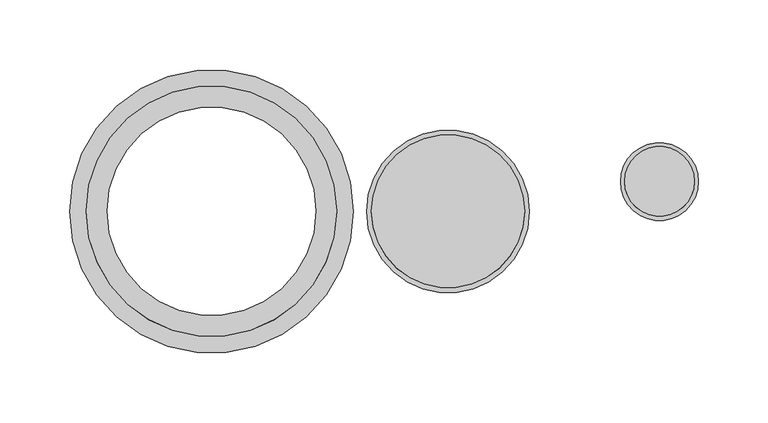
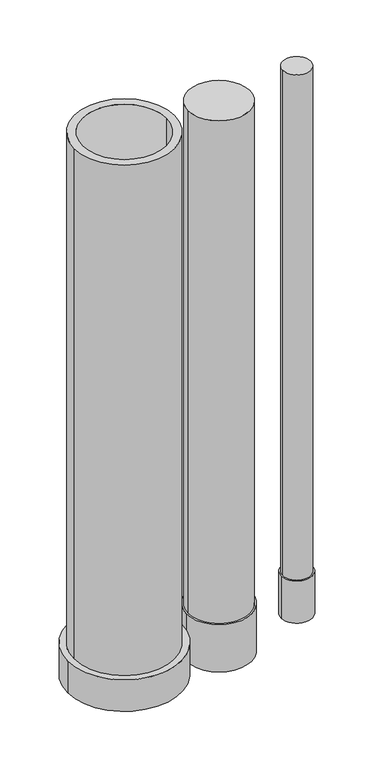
"""IFC4 building model written with IfcOpenShell, lengths in millimetres: pipe segment geometry, DERS_420_AM_AEB_Delta Discovery Air_pipe extension set-GG_M&G : pipe ext set L=1000mm."""

import ifcopenshell
import ifcopenshell.guid

model = None  # the IFC model being written
_history = None  # IfcOwnerHistory: only IFC2X3 demands one
_inside = {}  # id of a spatial element -> (the spatial element, [elements in it])
_under = {}  # id of a project, library or spatial element -> (it, [spatial elements below it])
_declared = {}  # id of a project -> (the project, [libraries it declares])
_typed = {}  # id of a type object -> (the type object, [elements of that type])
_made_of = {}  # id of a material, layer set ... -> (it, [elements and type objects made of it])


def new_model(schema):
    """Start an empty IFC model of exactly this schema.

    Asked for "IFC4X3", IfcOpenShell would pick the latest addendum, in which some entities
    have other attributes; the version numbers below select the first issue.
    IFC2X3 requires an IfcOwnerHistory on every rooted entity: one is made here for all.
    """
    global model, _history
    if schema == "IFC4X3":
        model = ifcopenshell.file(schema_version=(4, 3, 0, 0))
    else:
        model = ifcopenshell.file(schema=schema)
    _inside.clear()
    _under.clear()
    _declared.clear()
    _typed.clear()
    _made_of.clear()
    _history = None
    if model.schema == "IFC2X3":
        org = make("IfcOrganization", Name="unknown")
        user = make(
            "IfcPersonAndOrganization",
            ThePerson=make("IfcPerson", FamilyName="unknown"),
            TheOrganization=org,
        )
        app = make(
            "IfcApplication",
            ApplicationDeveloper=org,
            Version="unknown",
            ApplicationFullName="unknown",
            ApplicationIdentifier="unknown",
        )
        _history = make(
            "IfcOwnerHistory",
            OwningUser=user,
            OwningApplication=app,
            ChangeAction="ADDED",
            CreationDate=0,
        )
    return model


def make(cls, **values):
    """One entity of the class cls with the attributes given. An attribute that is None is left unset."""
    return model.create_entity(
        cls, **{name: value for name, value in values.items() if value is not None}
    )


def rooted(cls, **values):
    """An entity with a GlobalId (a new one), such as an element, a storey or a relation."""
    return make(cls, GlobalId=ifcopenshell.guid.new(), OwnerHistory=_history, **values)


def si_unit(unit_type, name, prefix=None):
    """IfcSIUnit, for example si_unit("LENGTHUNIT", "METRE", prefix="MILLI")."""
    return make("IfcSIUnit", UnitType=unit_type, Prefix=prefix, Name=name)


def assignment(units):
    """IfcUnitAssignment: the units of a project."""
    return None if units is None else make("IfcUnitAssignment", Units=units)


def point(xyz):
    """IfcCartesianPoint."""
    return None if xyz is None else make("IfcCartesianPoint", Coordinates=xyz)


def direction(xyz):
    """IfcDirection."""
    return None if xyz is None else make("IfcDirection", DirectionRatios=xyz)


def frame(location, z_axis=None, x_axis=None):
    """IfcAxis2Placement3D, a coordinate frame: its origin and axes. An axis left out is left unset."""
    return make(
        "IfcAxis2Placement3D",
        Location=point(location),
        Axis=direction(z_axis),
        RefDirection=direction(x_axis),
    )


def frame_2d(location, x_axis=None):
    """IfcAxis2Placement2D, a coordinate frame in the plane: its origin and x axis."""
    return make(
        "IfcAxis2Placement2D", Location=point(location), RefDirection=direction(x_axis)
    )


def origin():
    """The frame at (0, 0, 0) with its axes left unset."""
    return frame((0.0, 0.0, 0.0))


def origin_2d():
    """The frame at (0, 0) in the plane with its x axis left unset."""
    return frame_2d((0.0, 0.0))


def place(relative_to, where):
    """IfcLocalPlacement: puts the frame where relative to a parent placement (None: the world)."""
    return make(
        "IfcLocalPlacement", PlacementRelTo=relative_to, RelativePlacement=where
    )


def context(
    kind, dimensions, precision=None, world=None, true_north=None, identifier=None
):
    """IfcGeometricRepresentationContext, for example the 3D "Model" context."""
    return make(
        "IfcGeometricRepresentationContext",
        ContextIdentifier=identifier,
        ContextType=kind,
        CoordinateSpaceDimension=dimensions,
        Precision=precision,
        WorldCoordinateSystem=world,
        TrueNorth=true_north,
    )


def project(units=None, contexts=None):
    """IfcProject with its units and contexts."""
    return rooted(
        "IfcProject",
        Name="project",
        RepresentationContexts=contexts,
        UnitsInContext=assignment(units),
    )


def spatial(cls, under=None, at=None, **own):
    """A site, building, storey or space (cls), placed at a placement, below another one or the project."""
    s = rooted(cls, ObjectPlacement=at, **own)
    if under is not None:
        _under.setdefault(under.id(), (under, []))[1].append(s)
    return s


def circle_curve(where, radius):
    """IfcCircle in the frame where."""
    return make("IfcCircle", Position=where, Radius=radius)


def trimmed(basis, trim1, trim2, sense, master):
    """IfcTrimmedCurve: the piece of a basis curve between two trims."""
    return make(
        "IfcTrimmedCurve",
        BasisCurve=basis,
        Trim1=trim1,
        Trim2=trim2,
        SenseAgreement=sense,
        MasterRepresentation=master,
    )


def segment(curve, same_sense, transition):
    """IfcCompositeCurveSegment."""
    return make(
        "IfcCompositeCurveSegment",
        Transition=transition,
        SameSense=same_sense,
        ParentCurve=curve,
    )


def composite_curve(segments, self_intersect=None):
    """IfcCompositeCurve: segments joined end to end."""
    return make("IfcCompositeCurve", Segments=segments, SelfIntersect=self_intersect)


def outline(outer, holes=None, kind="AREA"):
    """IfcArbitraryClosedProfileDef: a profile drawn as a closed curve; with holes, ...WithVoids."""
    if holes is None:
        return make("IfcArbitraryClosedProfileDef", ProfileType=kind, OuterCurve=outer)
    return make(
        "IfcArbitraryProfileDefWithVoids",
        ProfileType=kind,
        OuterCurve=outer,
        InnerCurves=holes,
    )


def extrude(swept, where, along, depth):
    """IfcExtrudedAreaSolid: the profile swept, set in the frame where, extruded along a direction by depth."""
    return make(
        "IfcExtrudedAreaSolid",
        SweptArea=swept,
        Position=where,
        ExtrudedDirection=direction(along),
        Depth=depth,
    )


def shape(context_of_items, identifier, shape_type, items):
    """IfcShapeRepresentation: the items that make up one representation, for example the "Body"."""
    return make(
        "IfcShapeRepresentation",
        ContextOfItems=context_of_items,
        RepresentationIdentifier=identifier,
        RepresentationType=shape_type,
        Items=items,
    )


def source(mapping_origin, context_of_items, identifier, shape_type, items):
    """IfcRepresentationMap: a shape defined once, which mapped items show again and again."""
    return make(
        "IfcRepresentationMap",
        MappingOrigin=mapping_origin,
        MappedRepresentation=shape(context_of_items, identifier, shape_type, items),
    )


def transform(
    local_origin,
    x_axis=None,
    y_axis=None,
    z_axis=None,
    scale=None,
    scale2=None,
    scale3=None,
    uniform=True,
):
    """IfcCartesianTransformationOperator3D, or its non-uniform kind. x_axis, y_axis, z_axis: its Axis1, 2, 3."""
    if uniform:
        return make(
            "IfcCartesianTransformationOperator3D",
            Axis1=direction(x_axis),
            Axis2=direction(y_axis),
            LocalOrigin=point(local_origin),
            Scale=scale,
            Axis3=direction(z_axis),
        )
    return make(
        "IfcCartesianTransformationOperator3DnonUniform",
        Axis1=direction(x_axis),
        Axis2=direction(y_axis),
        LocalOrigin=point(local_origin),
        Scale=scale,
        Axis3=direction(z_axis),
        Scale2=scale2,
        Scale3=scale3,
    )


def mapped(mapping_source, mapping_target):
    """IfcMappedItem: shows the shape of a source again, moved by a transform."""
    return make(
        "IfcMappedItem", MappingSource=mapping_source, MappingTarget=mapping_target
    )


def made_of(thing, what):
    """Note that an element or type object is made of a material, layer set ...; save() writes the relation."""
    if what is not None:
        _made_of.setdefault(what.id(), (what, []))[1].append(thing)
    return thing


def element(
    cls,
    number,
    at=None,
    inside=None,
    cuts=None,
    type_object=None,
    material=None,
    context=None,
    identifier="Body",
    shape_type=None,
    held_by="IfcProductDefinitionShape",
    body=None,
    shapes=None,
    **own,
):
    """One element of the class cls, such as IfcWall. Its Tag is "e" and its number.

    at: its placement. inside: the storey or other place that contains it. cuts: it is an
    opening in that element (IfcRelVoidsElement). A single representation is given by context,
    identifier, shape_type and body (its items); several are given by shapes. held_by: the class
    of the entity that holds the representations. save() writes the other relations.
    """
    e = rooted(cls, Tag="e%d" % number, ObjectPlacement=at, **own)
    if body is not None:
        shapes = [shape(context, identifier, shape_type, body)]
    if shapes is not None:
        e.Representation = make(held_by, Representations=shapes)
    if inside is not None:
        _inside.setdefault(inside.id(), (inside, []))[1].append(e)
    if cuts is not None:
        rooted(
            "IfcRelVoidsElement", RelatingBuildingElement=cuts, RelatedOpeningElement=e
        )
    if type_object is not None:
        _typed.setdefault(type_object.id(), (type_object, []))[1].append(e)
    return made_of(e, material)


def aggregate(whole, parts):
    """IfcRelAggregates: a whole, such as a stair, and the parts it consists of."""
    return rooted("IfcRelAggregates", RelatingObject=whole, RelatedObjects=parts)


def save(model, path):
    """Write the relations noted so far, then the file.

    IfcRelAggregates (storeys below a building ...), IfcRelContainedInSpatialStructure (elements
    in a storey), IfcRelDefinesByType, IfcRelAssociatesMaterial and IfcRelDeclares: one each for
    every whole, place, type object, material and project.
    """
    for whole, parts in _under.values():
        aggregate(whole, parts)
    for where, things in _inside.values():
        rooted(
            "IfcRelContainedInSpatialStructure",
            RelatedElements=things,
            RelatingStructure=where,
        )
    for kind, things in _typed.values():
        rooted("IfcRelDefinesByType", RelatedObjects=things, RelatingType=kind)
    for what, things in _made_of.values():
        rooted("IfcRelAssociatesMaterial", RelatedObjects=things, RelatingMaterial=what)
    for by, libraries in _declared.values():
        rooted("IfcRelDeclares", RelatingContext=by, RelatedDefinitions=libraries)
    model.write(path)


def pipe_segment_adc9d0ba(model_context):
    return source(origin(), model_context, "Body", "SweptSolid", [
        extrude(outline(composite_curve([segment(trimmed(circle_curve(frame_2d((322.0, 21.5)), 25.0), [point((297.0, 21.5))], [point((347.0, 21.5))], False, "CARTESIAN"), True, "CONTINUOUS"), segment(trimmed(circle_curve(frame_2d((322.0, 21.5)), 25.0), [point((347.0, 21.5))], [point((297.0, 21.5))], False, "CARTESIAN"), True, "CONTINUOUS")], self_intersect=False)), frame((0.0, 0.0, -1000.0), z_axis=(0.0, 0.0, 1.0), x_axis=(1.0, 0.0, 0.0)), (0.0, 0.0, 1.0), 1000.0),
        extrude(outline(composite_curve([segment(trimmed(circle_curve(frame_2d((170.0, 0.0)), 55.0), [point((115.0, 0.0))], [point((225.0, 0.0))], False, "CARTESIAN"), True, "CONTINUOUS"), segment(trimmed(circle_curve(frame_2d((170.0, 0.0)), 55.0), [point((225.0, 0.0))], [point((115.0, 0.0))], False, "CARTESIAN"), True, "CONTINUOUS")], self_intersect=False)), frame((0.0, 0.0, -1000.0), z_axis=(0.0, 0.0, 1.0), x_axis=(1.0, 0.0, 0.0)), (0.0, 0.0, 1.0), 1000.0),
        extrude(outline(composite_curve([segment(trimmed(circle_curve(origin_2d(), 90.0), [point((-90.0, 0.0))], [point((90.0, 0.0))], False, "CARTESIAN"), True, "CONTINUOUS"), segment(trimmed(circle_curve(origin_2d(), 90.0), [point((90.0, 0.0))], [point((-90.0, 0.0))], False, "CARTESIAN"), True, "CONTINUOUS")], self_intersect=False), holes=[composite_curve([segment(trimmed(circle_curve(origin_2d(), 75.0), [point((-75.0, 0.0))], [point((75.0, 0.0))], True, "CARTESIAN"), True, "CONTINUOUS"), segment(trimmed(circle_curve(origin_2d(), 75.0), [point((75.0, 0.0))], [point((-75.0, 0.0))], True, "CARTESIAN"), True, "CONTINUOUS")], self_intersect=False)]), frame((0.0, 0.0, -1000.0), z_axis=(0.0, 0.0, 1.0), x_axis=(1.0, 0.0, 0.0)), (0.0, 0.0, 1.0), 1000.0),
        extrude(outline(composite_curve([segment(trimmed(circle_curve(origin_2d(), 102.0), [point((102.0, 0.0))], [point((-102.0, 0.0))], False, "CARTESIAN"), True, "CONTINUOUS"), segment(trimmed(circle_curve(origin_2d(), 102.0), [point((-102.0, 0.0))], [point((102.0, 0.0))], False, "CARTESIAN"), True, "CONTINUOUS")], self_intersect=False), holes=[composite_curve([segment(trimmed(circle_curve(origin_2d(), 90.0), [point((-90.0, 0.0))], [point((90.0, 0.0))], True, "CARTESIAN"), True, "CONTINUOUS"), segment(trimmed(circle_curve(origin_2d(), 90.0), [point((90.0, 0.0))], [point((-90.0, 0.0))], True, "CARTESIAN"), True, "CONTINUOUS")], self_intersect=False)]), frame((0.0, 0.0, -1030.0), z_axis=(0.0, 0.0, 1.0), x_axis=(1.0, 0.0, 0.0)), (0.0, 0.0, 1.0), 60.0),
        extrude(outline(composite_curve([segment(trimmed(circle_curve(frame_2d((170.0, 0.0)), 58.5), [point((228.5, 0.0))], [point((111.5, 0.0))], False, "CARTESIAN"), True, "CONTINUOUS"), segment(trimmed(circle_curve(frame_2d((170.0, 0.0)), 58.5), [point((111.5, 0.0))], [point((228.5, 0.0))], False, "CARTESIAN"), True, "CONTINUOUS")], self_intersect=False), holes=[composite_curve([segment(trimmed(circle_curve(frame_2d((170.0, 0.0)), 55.0), [point((115.0, 0.0))], [point((225.0, 0.0))], True, "CARTESIAN"), True, "CONTINUOUS"), segment(trimmed(circle_curve(frame_2d((170.0, 0.0)), 55.0), [point((225.0, 0.0))], [point((115.0, 0.0))], True, "CARTESIAN"), True, "CONTINUOUS")], self_intersect=False)]), frame((0.0, 0.0, -1045.0), z_axis=(0.0, 0.0, 1.0), x_axis=(1.0, 0.0, 0.0)), (0.0, 0.0, 1.0), 90.0),
        extrude(outline(composite_curve([segment(trimmed(circle_curve(frame_2d((322.0, 21.5)), 28.0), [point((350.0, 21.5))], [point((294.0, 21.5))], False, "CARTESIAN"), True, "CONTINUOUS"), segment(trimmed(circle_curve(frame_2d((322.0, 21.5)), 28.0), [point((294.0, 21.5))], [point((350.0, 21.5))], False, "CARTESIAN"), True, "CONTINUOUS")], self_intersect=False), holes=[composite_curve([segment(trimmed(circle_curve(frame_2d((322.0, 21.5)), 25.0), [point((297.0, 21.5))], [point((347.0, 21.5))], True, "CARTESIAN"), True, "CONTINUOUS"), segment(trimmed(circle_curve(frame_2d((322.0, 21.5)), 25.0), [point((347.0, 21.5))], [point((297.0, 21.5))], True, "CARTESIAN"), True, "CONTINUOUS")], self_intersect=False)]), frame((0.0, 0.0, -1040.0), z_axis=(0.0, 0.0, 1.0), x_axis=(1.0, 0.0, 0.0)), (0.0, 0.0, 1.0), 80.0),
    ])


if __name__ == "__main__":
    model = new_model("IFC4")
    model_context = context("Model", 3, world=origin())
    ifc_project = project(units=[si_unit("LENGTHUNIT", "METRE", prefix="MILLI")], contexts=[model_context])
    site = spatial("IfcSite", under=ifc_project)
    building = spatial("IfcBuilding", under=site)
    placement = place(None, origin())
    pipe_segment_shape = pipe_segment_adc9d0ba(model_context)
    element("IfcPipeSegment", 1, ObjectType="DERS_420_AM_AEB_Delta Discovery Air_pipe extension set-GG_M&G : pipe ext set L=1000mm", at=placement, inside=building, context=model_context, shape_type="MappedRepresentation", body=[
        mapped(pipe_segment_shape, transform((0.0, 0.0, 0.0), x_axis=(1.0, 0.0, 0.0), y_axis=(0.0, 1.0, 0.0), z_axis=(0.0, 0.0, 1.0))),
    ])
    save(model, "model.ifc")
